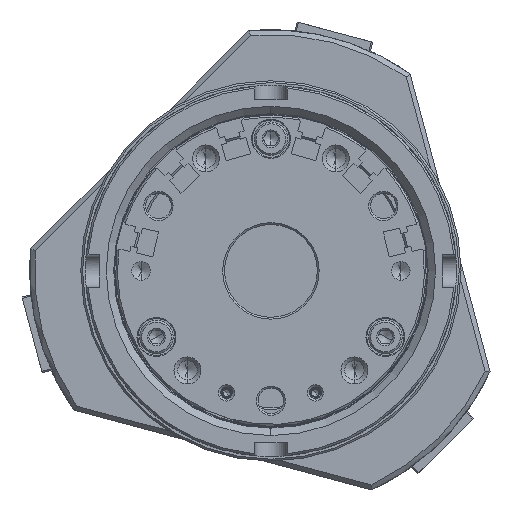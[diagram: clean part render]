
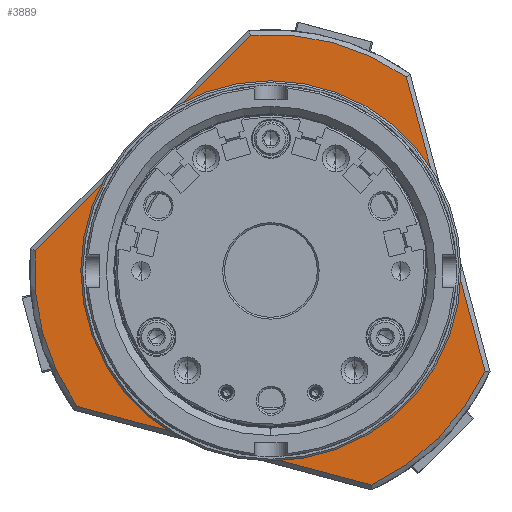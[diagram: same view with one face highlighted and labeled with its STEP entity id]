
A CAD part, front view. The second image highlights one B-rep face of the part: STEP entity #3889.
In plain terms, the highlighted planar face has unit normal (0, -1, 0).
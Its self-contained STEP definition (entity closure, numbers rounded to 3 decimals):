
#2304 = CIRCLE ( 'NONE', #45017, 37.1 ) ;
#3582 = ORIENTED_EDGE ( 'NONE', *, *, #69105, .T. ) ;
#3889 = ADVANCED_FACE ( 'NONE', ( #65596, #8810 ), #26078, .T. ) ;
#4196 = ORIENTED_EDGE ( 'NONE', *, *, #65851, .T. ) ;
#6397 = DIRECTION ( 'NONE',  ( -1., 0., 0. ) ) ;
#6587 = CIRCLE ( 'NONE', #94199, 37.1 ) ;
#8369 = CARTESIAN_POINT ( 'NONE',  ( 0., 1., -37.1 ) ) ;
#8810 = FACE_OUTER_BOUND ( 'NONE', #67507, .T. ) ;
#9398 = VERTEX_POINT ( 'NONE', #74201 ) ;
#10202 = CARTESIAN_POINT ( 'NONE',  ( 17.343, 1., -47.96 ) ) ;
#10483 = VERTEX_POINT ( 'NONE', #8369 ) ;
#13100 = CARTESIAN_POINT ( 'NONE',  ( 49.84, 1., 8.325 ) ) ;
#14737 = LINE ( 'NONE', #112929, #45584 ) ;
#15967 = CARTESIAN_POINT ( 'NONE',  ( 0., 1., 0. ) ) ;
#16276 = EDGE_CURVE ( 'NONE', #96330, #40318, #14737, .T. ) ;
#20744 = DIRECTION ( 'NONE',  ( 0., 1., 0. ) ) ;
#22120 = CARTESIAN_POINT ( 'NONE',  ( -49.84, 1., 8.325 ) ) ;
#23906 = CARTESIAN_POINT ( 'NONE',  ( 0., 1., 0. ) ) ;
#24166 = CARTESIAN_POINT ( 'NONE',  ( -50.207, 1., 8.96 ) ) ;
#26078 = PLANE ( 'NONE',  #37774 ) ;
#31622 = LINE ( 'NONE', #13100, #123875 ) ;
#34819 = VERTEX_POINT ( 'NONE', #124129 ) ;
#37774 = AXIS2_PLACEMENT_3D ( 'NONE', #46475, #94338, #56652 ) ;
#40318 = VERTEX_POINT ( 'NONE', #71861 ) ;
#41862 = CIRCLE ( 'NONE', #82578, 51. ) ;
#45017 = AXIS2_PLACEMENT_3D ( 'NONE', #15967, #87977, #77766 ) ;
#45170 = EDGE_CURVE ( 'NONE', #96330, #34819, #90506, .T. ) ;
#45584 = VECTOR ( 'NONE', #6397, 1000. ) ;
#46475 = CARTESIAN_POINT ( 'NONE',  ( 0., 1., 37.1 ) ) ;
#46488 = EDGE_CURVE ( 'NONE', #78516, #9398, #77188, .T. ) ;
#48818 = EDGE_CURVE ( 'NONE', #78516, #40318, #41862, .T. ) ;
#49241 = CARTESIAN_POINT ( 'NONE',  ( 0., 1., 0. ) ) ;
#52280 = CARTESIAN_POINT ( 'NONE',  ( 0., 1., 0. ) ) ;
#55251 = EDGE_CURVE ( 'NONE', #110082, #34819, #31622, .T. ) ;
#56652 = DIRECTION ( 'NONE',  ( 0., 0., -1. ) ) ;
#59985 = EDGE_LOOP ( 'NONE', ( #3582, #4196 ) ) ;
#60911 = DIRECTION ( 'NONE',  ( 0.5, 0., 0.866 ) ) ;
#62156 = CARTESIAN_POINT ( 'NONE',  ( 0., 1., 0. ) ) ;
#64210 = ORIENTED_EDGE ( 'NONE', *, *, #16276, .T. ) ;
#65596 = FACE_BOUND ( 'NONE', #59985, .T. ) ;
#65851 = EDGE_CURVE ( 'NONE', #10483, #84530, #2304, .T. ) ;
#67507 = EDGE_LOOP ( 'NONE', ( #85333, #104750, #73023, #109811, #76965, #64210 ) ) ;
#69015 = DIRECTION ( 'NONE',  ( 0., 0., 1. ) ) ;
#69105 = EDGE_CURVE ( 'NONE', #84530, #10483, #6587, .T. ) ;
#69946 = EDGE_CURVE ( 'NONE', #110082, #9398, #98105, .T. ) ;
#70783 = DIRECTION ( 'NONE',  ( 0., 1., 0. ) ) ;
#71861 = CARTESIAN_POINT ( 'NONE',  ( -32.863, 1., 39. ) ) ;
#73023 = ORIENTED_EDGE ( 'NONE', *, *, #69946, .F. ) ;
#74201 = CARTESIAN_POINT ( 'NONE',  ( -17.343, 1., -47.96 ) ) ;
#76965 = ORIENTED_EDGE ( 'NONE', *, *, #45170, .F. ) ;
#77188 = LINE ( 'NONE', #22120, #116965 ) ;
#77766 = DIRECTION ( 'NONE',  ( 0., 0., 1. ) ) ;
#78516 = VERTEX_POINT ( 'NONE', #24166 ) ;
#81970 = DIRECTION ( 'NONE',  ( 0., 0., 1. ) ) ;
#82578 = AXIS2_PLACEMENT_3D ( 'NONE', #49241, #87544, #69015 ) ;
#82597 = DIRECTION ( 'NONE',  ( 0., 1., 0. ) ) ;
#84530 = VERTEX_POINT ( 'NONE', #125482 ) ;
#85333 = ORIENTED_EDGE ( 'NONE', *, *, #48818, .F. ) ;
#87404 = DIRECTION ( 'NONE',  ( 0.5, 0., -0.866 ) ) ;
#87544 = DIRECTION ( 'NONE',  ( 0., 1., 0. ) ) ;
#87977 = DIRECTION ( 'NONE',  ( 0., 1., 0. ) ) ;
#90506 = CIRCLE ( 'NONE', #116866, 51. ) ;
#92018 = AXIS2_PLACEMENT_3D ( 'NONE', #23906, #82597, #81970 ) ;
#94199 = AXIS2_PLACEMENT_3D ( 'NONE', #52280, #70783, #98260 ) ;
#94338 = DIRECTION ( 'NONE',  ( 0., -1., 0. ) ) ;
#96330 = VERTEX_POINT ( 'NONE', #97628 ) ;
#97628 = CARTESIAN_POINT ( 'NONE',  ( 32.863, 1., 39. ) ) ;
#98105 = CIRCLE ( 'NONE', #92018, 51. ) ;
#98260 = DIRECTION ( 'NONE',  ( 0., 0., 1. ) ) ;
#98579 = DIRECTION ( 'NONE',  ( 0., 0., 1. ) ) ;
#104750 = ORIENTED_EDGE ( 'NONE', *, *, #46488, .T. ) ;
#109811 = ORIENTED_EDGE ( 'NONE', *, *, #55251, .T. ) ;
#110082 = VERTEX_POINT ( 'NONE', #10202 ) ;
#112929 = CARTESIAN_POINT ( 'NONE',  ( 0., 1., 39. ) ) ;
#116866 = AXIS2_PLACEMENT_3D ( 'NONE', #62156, #20744, #98579 ) ;
#116965 = VECTOR ( 'NONE', #87404, 1000. ) ;
#123875 = VECTOR ( 'NONE', #60911, 1000. ) ;
#124129 = CARTESIAN_POINT ( 'NONE',  ( 50.207, 1., 8.96 ) ) ;
#125482 = CARTESIAN_POINT ( 'NONE',  ( 0., 1., 37.1 ) ) ;
